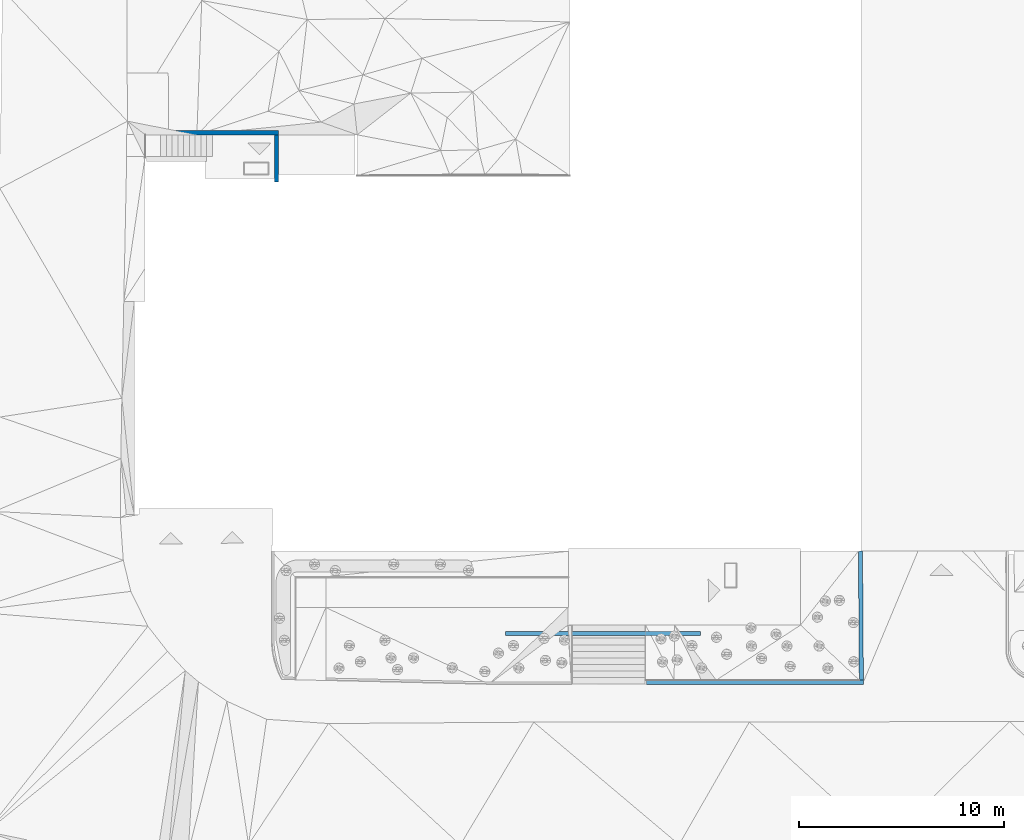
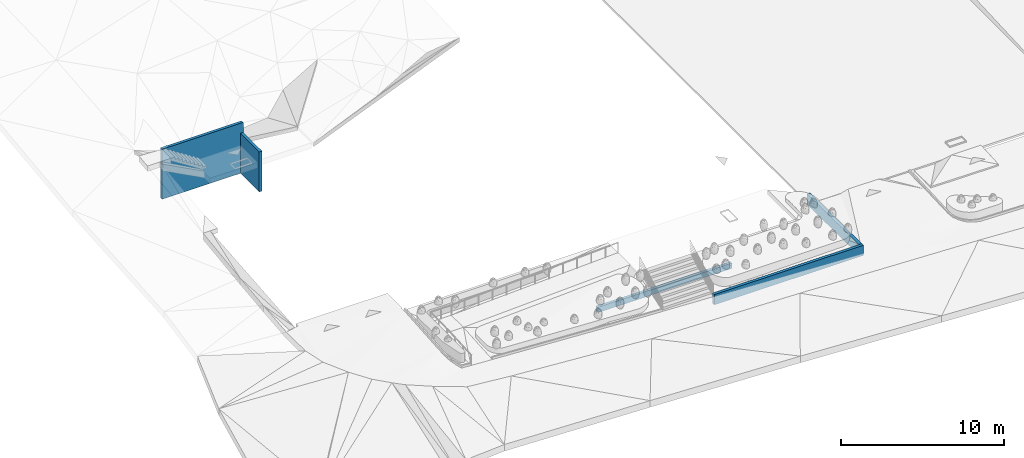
# One storey, part 13 of 23: 5 walls.
"""IFC2X3 building model written with IfcOpenShell, lengths in metres."""

from ifc_helpers import new_model, entity, si_unit, converted_unit, direction, frame, frame_2d, origin, place, context, subcontext, project, spatial, polyline, rectangle, outline, extrude, material, layer, layer_set, layer_usage, type_object, element, save


model = new_model("IFC2X3")

# Units and contexts
model_context = context("Model", 3, precision=1e-05, world=origin(), true_north=direction((0.7716245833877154, 0.6360782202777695)))
body_context = subcontext(model_context, "Body", "Model", "MODEL_VIEW")
ifc_project = project(units=[si_unit("LENGTHUNIT", "METRE"), converted_unit("PLANEANGLEUNIT", "DEGREE", entity("IfcPlaneAngleMeasure", 0.017453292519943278), si_unit("PLANEANGLEUNIT", "RADIAN"), dimensions=[0, 0, 0, 0, 0, 0, 0]), si_unit("AREAUNIT", "SQUARE_METRE")], contexts=[model_context])

# Site, building, storey
site_placement = place(None, origin())
site = spatial("IfcSite", under=ifc_project, at=site_placement, Name="Default", CompositionType="ELEMENT")
building_placement = place(site_placement, origin())
building = spatial("IfcBuilding", under=site, at=building_placement, Name="<Building Name>", CompositionType="ELEMENT")
storey_placement = place(building_placement, origin())
storey = spatial("IfcBuildingStorey", under=building, at=storey_placement, Name="00 - HAV", CompositionType="ELEMENT", Elevation=0.0)

# Walls
ifc_material_1 = material(Name="Støttemur eksisterende rød")
ifc_layer_1 = layer(ifc_material_1, 0.2)
ifc_layer_set_1 = layer_set([ifc_layer_1], Name="Basic Wall:721 Støttemur eksisterende 300mm")
ifc_layer_usage_1 = layer_usage(ifc_layer_set_1, "AXIS2", "NEGATIVE", 0.1)
wall_type_1 = type_object("IfcWallType", Name="Basic Wall:721 Støttemur eksisterende 300mm", PredefinedType="STANDARD", material=ifc_layer_set_1)
wall_1_placement = place(storey_placement, frame((258.5197181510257, 46.898751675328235, 31.0), z_axis=(0.0, 0.0, 1.0), x_axis=(-0.006714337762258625, 0.9999774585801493, 0.0)))
element("IfcWallStandardCase", 1, at=wall_1_placement, inside=storey, type_object=wall_type_1, material=ifc_layer_usage_1, Name="Basic Wall:721 Støttemur eksisterende 300mm", ObjectType="Basic Wall:721 Støttemur eksisterende 300mm", context=body_context, shape_type="SweptSolid", body=[
    extrude(outline(polyline([(6.286849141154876, -0.10000000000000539), (6.286849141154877, 0.10000000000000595), (0.0013428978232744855, 0.10000000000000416), (0.0, -0.10000000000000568), (6.286849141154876, -0.10000000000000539)])), origin(), (0.0, 0.0, 1.0), 0.8061715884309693),
])
ifc_layer_usage_2 = layer_usage(ifc_layer_set_1, "AXIS2", "NEGATIVE", 0.1)
wall_2_placement = place(storey_placement, frame((248.047986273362, 46.79942310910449, 31.03136015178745)))
element("IfcWallStandardCase", 2, at=wall_2_placement, inside=storey, type_object=wall_type_1, material=ifc_layer_usage_2, Name="Basic Wall:721 Støttemur eksisterende 300mm", ObjectType="Basic Wall:721 Støttemur eksisterende 300mm", context=body_context, shape_type="SweptSolid", body=[
    extrude(outline(polyline([(-0.13549559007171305, -5.2860813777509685), (0.06450891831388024, -5.2860813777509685), (0.13549108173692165, 5.285409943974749), (-0.06450440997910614, 5.286752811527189), (-0.13549559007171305, -5.2860813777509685)])), frame((5.286200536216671, 0.0, 0.0), z_axis=(0.0, 0.0, 1.0), x_axis=(-0.006714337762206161, 0.9999774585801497, 0.0)), (0.0, 0.0, 1.0), 0.7686398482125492),
])
ifc_material_2 = material(Name="A_Default_Building_Part")
ifc_layer_2 = layer(ifc_material_2, 0.2)
ifc_layer_set_2 = layer_set([ifc_layer_2], Name="Basic Wall:721 Støttemur 200mm")
ifc_layer_usage_3 = layer_usage(ifc_layer_set_2, "AXIS2", "POSITIVE", -0.1)
wall_type_2 = type_object("IfcWallType", Name="Basic Wall:721 Støttemur 200mm", PredefinedType="STANDARD", material=ifc_layer_set_2)
wall_3_placement = place(storey_placement, frame((241.167986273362, 49.18305579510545, 31.4)))
element("IfcWallStandardCase", 3, at=wall_3_placement, inside=storey, type_object=wall_type_2, material=ifc_layer_usage_3, Name="Basic Wall:721 Støttemur 200mm", ObjectType="Basic Wall:721 Støttemur 200mm", context=body_context, shape_type="SweptSolid", body=[
    extrude(rectangle(XDim=9.509147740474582, YDim=0.2000000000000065, at=frame_2d((4.754573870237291, 6.800116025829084e-16), x_axis=(-1.0, 0.0))), origin(), (0.0, 0.0, 1.0), 0.3999999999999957),
])
ifc_layer_usage_4 = layer_usage(ifc_layer_set_2, "AXIS2", "NEGATIVE", 0.1)
wall_4_placement = place(storey_placement, frame((224.36315234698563, 73.5821926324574, 31.0)))
element("IfcWallStandardCase", 4, at=wall_4_placement, inside=storey, type_object=wall_type_2, material=ifc_layer_usage_4, Name="Basic Wall:721 Støttemur 200mm", ObjectType="Basic Wall:721 Støttemur 200mm", context=body_context, shape_type="SweptSolid", body=[
    extrude(rectangle(XDim=5.750000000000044, YDim=0.2000000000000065, at=frame_2d((2.875000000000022, 1.5265566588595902e-16), x_axis=(-1.0, 0.0))), origin(), (0.0, 0.0, 1.0), 3.7499999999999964),
])
ifc_layer_usage_5 = layer_usage(ifc_layer_set_2, "AXIS2", "NEGATIVE", 0.1)
wall_5_placement = place(storey_placement, frame((230.01315234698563, 73.48219263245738, 31.0), z_axis=(0.0, 0.0, 1.0), x_axis=(0.0, -1.0, 0.0)))
element("IfcWallStandardCase", 5, at=wall_5_placement, inside=storey, type_object=wall_type_2, material=ifc_layer_usage_5, Name="Basic Wall:721 Støttemur 200mm", ObjectType="Basic Wall:721 Støttemur 200mm", context=body_context, shape_type="SweptSolid", body=[
    extrude(rectangle(XDim=2.299999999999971, YDim=0.20000000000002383, at=frame_2d((1.1499999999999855, 0.0), x_axis=(-1.0, 0.0))), origin(), (0.0, 0.0, 1.0), 2.999999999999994),
])

save(model, "model.ifc")
